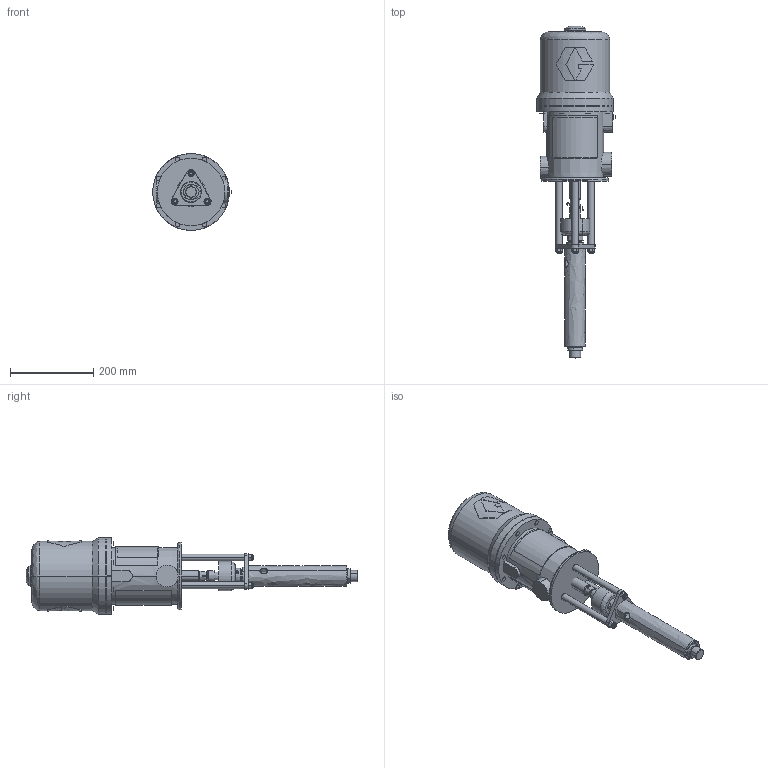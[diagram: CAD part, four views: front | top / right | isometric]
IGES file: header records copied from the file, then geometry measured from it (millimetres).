
Start section:  PTC IGES file: 239140-en-h.igs
Global section: file name: 239140-en-h.igs; native system: Creo Parametric by PTC Inc.; preprocessor: 2021072; author: qufmd1; organization: Unknown; date: 20220621.141625; units: inch
Bounding box: 188.59 x 797.13 x 184.15 mm (x, y, z)
Surface area: 429113.6 mm2 (no closed solid volume)
Topology: 0 solids, 0 shells, 332 faces, 1474 edges, 1474 vertices
Faces by surface type: revolution 198, bspline 134
